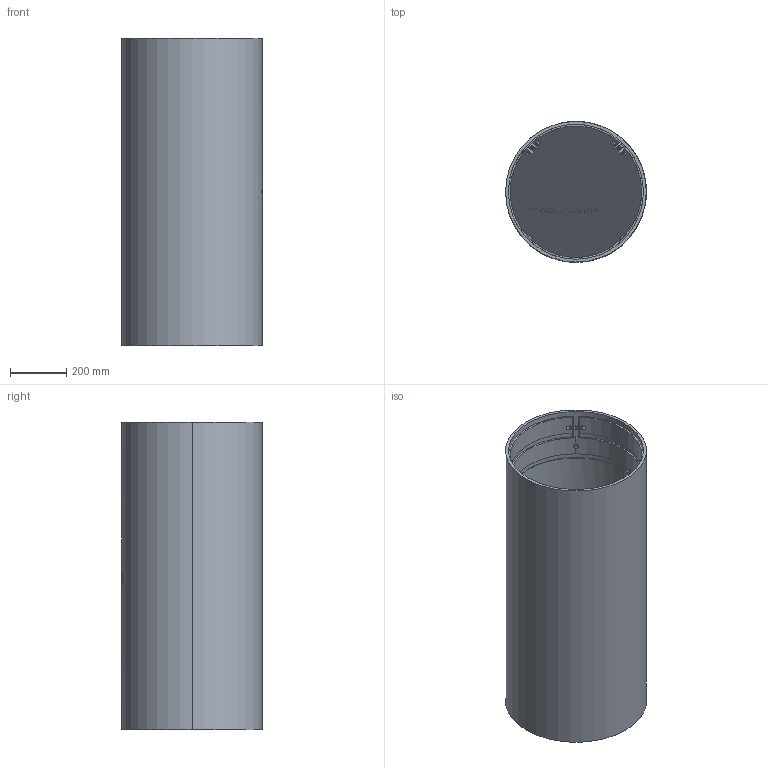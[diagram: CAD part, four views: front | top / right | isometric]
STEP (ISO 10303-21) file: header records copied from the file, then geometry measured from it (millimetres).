
FILE_DESCRIPTION (( 'STEP AP214' ), '1' );
FILE_NAME ('CF-IL-G5-PRO-S0500-NN-316-IDP.STEP', '2023-02-13T16:20:08', ( '' ), ( '' ), 'SwSTEP 2.0', 'SolidWorks 2022', '' );
FILE_SCHEMA (( 'AUTOMOTIVE_DESIGN' ));
Length unit declared in the file: millimetre
Products named in the file (3): CF-IL-G5-PRO-S0500-NN-316-IDP; Clamp 500_500; CF-IL-G5-PRO-S0500-NN-316-IDP_CM-0100-B
Assembly tree (3 placements, depth 2):
  CF-IL-G5-PRO-S0500-NN-316-IDP
    CF-IL-G5-PRO-S0500-NN-316-IDP_CM-0100-B
    Clamp 500_500  x2
Bounding box: 500.5 x 500.5 x 1093 mm (x, y, z)
Volume: 22247213.1 mm3; surface area: 4361076.4 mm2
Topology: 11 solids, 11 shells, 1993 faces, 5553 edges, 3619 vertices
Faces by surface type: plane 794, bspline 670, cone 270, cylinder 259
Entity records: 76393 total; most frequent: CARTESIAN_POINT 22820, ORIENTED_EDGE 9774, DIRECTION 4984, EDGE_CURVE 4887, VERTEX_POINT 3238, B_SPLINE_CURVE_WITH_KNOTS 2281, LINE 2246, VECTOR 2246
